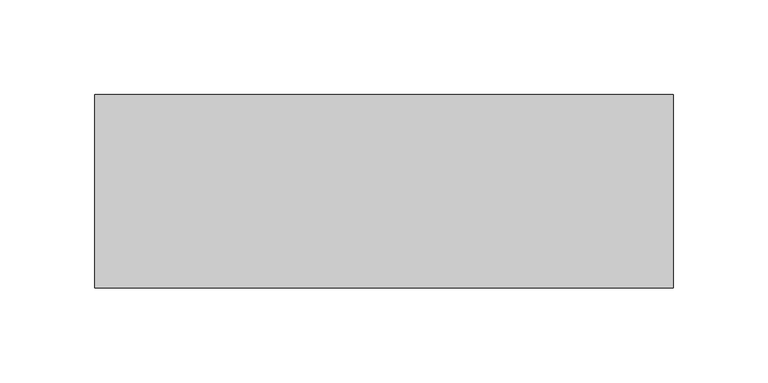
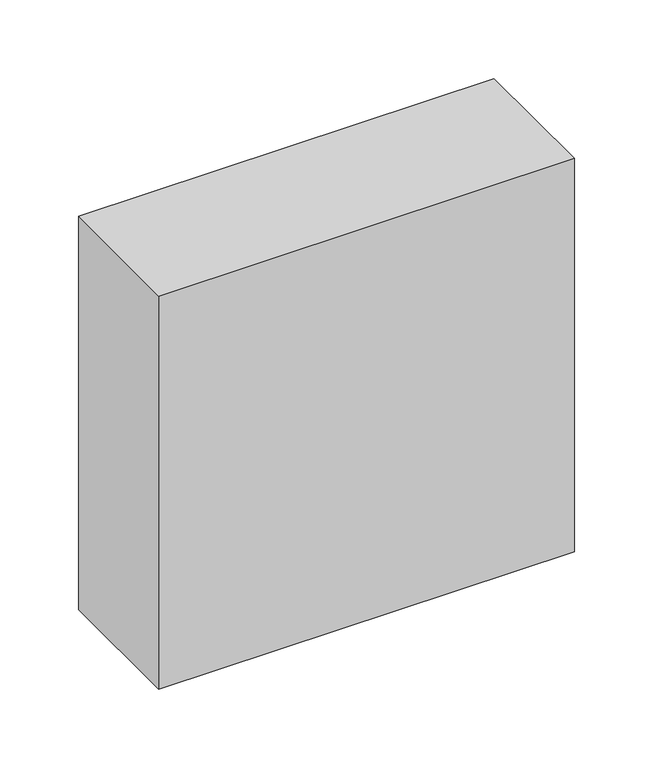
"""IFC4 building model written with IfcOpenShell, lengths in millimetres: proxy geometry, DX_InRow_Control : DX_InRow_Control."""

from ifc_helpers import new_model, si_unit, origin, origin_with_axes, place, context, project, spatial, polyline, outline, extrude, source, transform, mapped, element, save


def electrical_equipment_9a1382ec(model_context):
    return source(origin(), model_context, "Body", "SweptSolid", [
        extrude(outline(polyline([(277.5, 177.0), (277.5, 75.0), (-27.5, 75.0), (-27.5, 177.0), (277.5, 177.0)])), origin_with_axes(), (0.0, 0.0, 1.0), 305.0),
    ])


if __name__ == "__main__":
    model = new_model("IFC4")
    model_context = context("Model", 3, world=origin())
    ifc_project = project(units=[si_unit("LENGTHUNIT", "METRE", prefix="MILLI")], contexts=[model_context])
    site = spatial("IfcSite", under=ifc_project)
    building = spatial("IfcBuilding", under=site)
    placement = place(None, origin())
    electrical_equipment_shape = electrical_equipment_9a1382ec(model_context)
    element("IfcBuildingElementProxy", 1, Name="DX_InRow_Control : DX_InRow_Control", ObjectType="DX_InRow_Control : DX_InRow_Control", at=placement, inside=building, context=model_context, shape_type="MappedRepresentation", body=[
        mapped(electrical_equipment_shape, transform((0.0, 0.0, 0.0), x_axis=(1.0, 0.0, 0.0), y_axis=(0.0, 1.0, 0.0), z_axis=(0.0, 0.0, 1.0))),
    ])
    save(model, "model.ifc")
